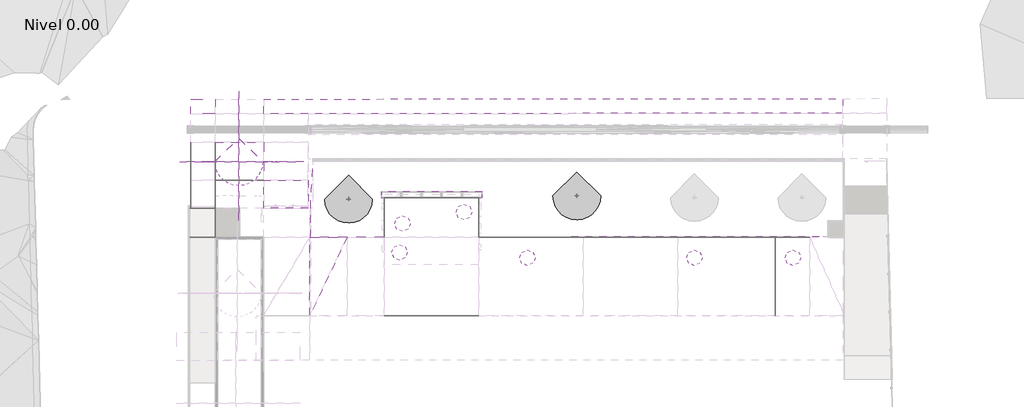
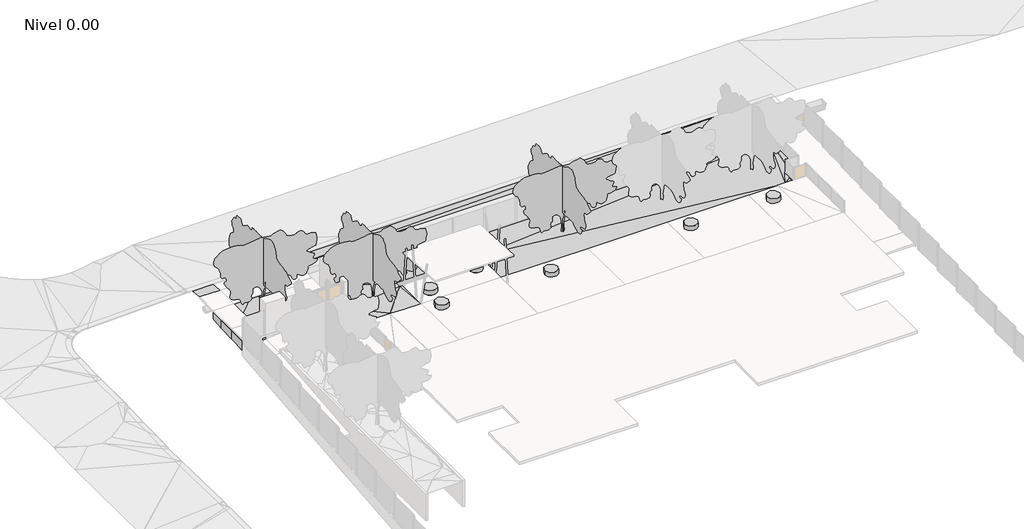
# One storey, part 9 of 10: 23 proxies, 3 geographic elements.
"""IFC4 building model written with IfcOpenShell, lengths in millimetres."""

from ifc_helpers import new_model, si_unit, origin, place, context, project, spatial, triangles, transform, mapped, element, save
from components import generic_models_06e8632b, m_rpc_tree_deciduous_31fc5fb8

model = new_model("IFC4")

# Units and contexts
model_context = context("Model", 3, world=origin())
ifc_project = project(units=[si_unit("LENGTHUNIT", "METRE", prefix="MILLI")], contexts=[model_context])

# Site, building, storey
site = spatial("IfcSite", under=ifc_project)
building = spatial("IfcBuilding", under=site)
storey = spatial("IfcBuildingStorey", under=building, Name="Nivel 0.00", Elevation=0.0)

# Proxies
placement = place(None, origin())
element("IfcBuildingElementProxy", 1, Name="Building Element Proxy", at=placement, inside=storey, context=model_context, shape_type="Tessellation", body=[
    triangles([(-22137.5720032, 9420.6086975, 1349.840427), (-22137.5720032, 9420.6086975, 886.5374565), (-22137.5720032, 9754.9929382, 1349.840427), (-22137.5720032, 9754.9929382, 911.1204037), (-22137.5720032, 10777.4409943, 1349.840427), (-22137.5720032, 10777.4409943, 965.9371885)], [[1, 4, 2], [1, 3, 4], [3, 6, 4], [3, 5, 6]], closed=False),
    triangles([(-23708.28078, 10777.5840088, 1349.840427), (-23708.28078, 10777.5840088, 733.5345137), (-23708.28078, 9420.6086975, 1349.840427), (-23708.28078, 9420.6086975, 660.7827044)], [[1, 4, 2], [1, 3, 4]], closed=False),
    triangles([(-23708.28078, 9420.6086975, 1349.840427), (-23708.28078, 9420.6086975, 660.7827044), (-23708.28078, 10777.5840088, 1349.840427), (-23708.28078, 10777.5840088, 733.5345137)], [[1, 4, 2], [1, 3, 4]], closed=False),
    triangles([(-22137.5720032, 10777.4409943, 1349.840427), (-22137.5720032, 10777.4409943, 965.9371885), (-22137.5720032, 9754.9929382, 1349.840427), (-22137.5720032, 9754.9929382, 911.1204037), (-22137.5720032, 9420.6086975, 1349.840427), (-22137.5720032, 9420.6086975, 886.5374565)], [[1, 4, 2], [1, 3, 4], [3, 6, 4], [3, 5, 6]], closed=False),
    triangles([(-22137.5720032, 10777.4409943, 1349.840427), (-22137.5720032, 10777.4409943, 965.9371885), (-22137.5720032, 11558.1026459, 1349.840427), (-22137.5720032, 11558.1026459, 1007.7910292), (-22137.5720032, 11845.059549, 1349.840427), (-22137.5720032, 11845.059549, 1026.7517178)], [[1, 4, 2], [1, 3, 4], [3, 6, 4], [3, 5, 6]], closed=False),
    triangles([(-23708.28078, 11845.059549, 1349.840427), (-23708.28078, 11845.059549, 827.0926111), (-23708.28078, 11719.6904572, 1349.840427), (-23708.28078, 11719.6904572, 784.0439306), (-23708.28078, 10777.5840088, 1349.840427), (-23708.28078, 10777.5840088, 733.5345137)], [[1, 4, 2], [1, 3, 4], [3, 6, 4], [3, 5, 6]], closed=False),
    triangles([(-23708.28078, 10777.5840088, 1349.840427), (-23708.28078, 10777.5840088, 733.5345137), (-23708.28078, 11719.6904572, 1349.840427), (-23708.28078, 11719.6904572, 784.0439306), (-23708.28078, 11845.059549, 1349.840427), (-23708.28078, 11845.059549, 827.0926111)], [[1, 4, 2], [1, 3, 4], [3, 6, 4], [3, 5, 6]], closed=False),
    triangles([(-22137.5720032, 11845.059549, 1349.840427), (-22137.5720032, 11845.059549, 1026.7517178), (-22137.5720032, 11558.1026459, 1349.840427), (-22137.5720032, 11558.1026459, 1007.7910292), (-22137.5720032, 10777.4409943, 1349.840427), (-22137.5720032, 10777.4409943, 965.9371885)], [[1, 4, 2], [1, 3, 4], [3, 6, 4], [3, 5, 6]], closed=False),
    triangles([(-23708.28078, 11845.059549, 1349.840427), (-23708.28078, 9420.6086975, 1349.840427), (-22137.5720032, 9420.6086975, 1349.840427), (-22137.5720032, 11845.059549, 1349.840427)], [[1, 2, 3], [3, 4, 1]], closed=False),
])
element("IfcBuildingElementProxy", 2, Name="Building Element Proxy", at=placement, inside=storey, context=model_context, shape_type="Tessellation", body=[
    triangles([(-19057.5972107, 7625.127594, 1349.840427), (-16212.3325104, 7625.127594, 1349.840427), (-16212.3325104, 9420.6086975, 1349.840427), (-19057.5972107, 9420.6086975, 1349.840427)], [[4, 1, 3], [2, 3, 1]], closed=False),
])
element("IfcBuildingElementProxy", 3, Name="Building Element Proxy", at=placement, inside=storey, context=model_context, shape_type="Tessellation", body=[
    triangles([(-19057.5972107, 9420.6086975, 1349.840427), (-19057.5972107, 9420.6086975, 1103.6114885), (-19562.2291992, 9420.6086975, 1349.840427), (-19562.2291992, 9420.6086975, 1222.4268379), (-20641.6981934, 9420.6086975, 1349.840427), (-20641.6981934, 9420.6086975, 1091.6262463), (-22137.5720032, 9420.6086975, 1349.840427), (-22137.5720032, 9420.6086975, 886.5374565), (-22137.5720032, 7662.0526657, 1349.840427), (-22137.5720032, 7662.0526657, 757.2537054), (-22137.5720032, 7625.127594, 1349.840427), (-22137.5720032, 7625.127594, 754.0387127)], [[1, 4, 2], [1, 3, 4], [3, 6, 4], [3, 5, 6], [5, 8, 6], [5, 7, 8], [7, 10, 8], [7, 9, 10], [9, 12, 10], [9, 11, 12]], closed=False),
    triangles([(-19057.5972107, 9420.6086975, 1349.840427), (-19057.5972107, 9420.6086975, 1103.6114885), (-19562.2291992, 9420.6086975, 1349.840427), (-19562.2291992, 9420.6086975, 1222.4268379), (-20641.6981934, 9420.6086975, 1349.840427), (-20641.6981934, 9420.6086975, 1091.6262463), (-22137.5720032, 9420.6086975, 1349.840427), (-22137.5720032, 9420.6086975, 886.5374565), (-22137.5720032, 7662.0526657, 1349.840427), (-22137.5720032, 7662.0526657, 757.2537054), (-22137.5720032, 7625.127594, 1349.840427), (-22137.5720032, 7625.127594, 754.0387127)], [[1, 4, 2], [1, 3, 4], [3, 6, 4], [3, 5, 6], [5, 8, 6], [5, 7, 8], [7, 10, 8], [7, 9, 10], [9, 12, 10], [9, 11, 12]], closed=False),
    triangles([(-22137.5720032, 9420.6086975, 1349.840427), (-22137.5720032, 7620.6086838, 1349.840427), (-19057.5972107, 7620.6086838, 1349.840427), (-19057.5972107, 9420.6086975, 1349.840427)], [[1, 2, 3], [3, 4, 1]], closed=False),
])
element("IfcBuildingElementProxy", 4, Name="Building Element Proxy", at=placement, inside=storey, context=model_context, shape_type="Tessellation", body=[
    triangles([(-22137.5720032, 9420.6086975, 1349.840427), (-22137.5720032, 9420.6086975, 886.5374565), (-22137.5720032, 7662.0526657, 1349.840427), (-22137.5720032, 7662.0526657, 757.2537054), (-22137.5720032, 7625.127594, 1349.840427), (-22137.5720032, 7625.127594, 754.03864), (-22168.9793884, 7625.127594, 1349.840427), (-22168.9793884, 7625.127594, 750.2327677), (-23708.28078, 7625.127594, 1349.840427), (-23708.28078, 7625.127594, 539.1900899), (-23708.28078, 8897.803981, 1349.840427), (-23708.28078, 8897.803981, 632.7534559), (-23708.28078, 9420.6086975, 1349.840427), (-23708.28078, 9420.6086975, 660.7827044)], [[1, 4, 2], [1, 3, 4], [3, 6, 4], [3, 5, 6], [5, 8, 6], [5, 7, 8], [7, 10, 8], [7, 9, 10], [9, 12, 10], [9, 11, 12], [11, 14, 12], [11, 13, 14]], closed=False),
    triangles([(-23708.28078, 9420.6086975, 1349.840427), (-23708.28078, 9420.6086975, 660.7827044), (-23708.28078, 8897.803981, 1349.840427), (-23708.28078, 8897.803981, 632.7534559), (-23708.28078, 7625.127594, 1349.840427), (-23708.28078, 7625.127594, 539.1900899), (-22168.9793884, 7625.127594, 1349.840427), (-22168.9793884, 7625.127594, 750.2327677), (-22137.5720032, 7625.127594, 1349.840427), (-22137.5720032, 7625.127594, 754.03864), (-22137.5720032, 7662.0526657, 1349.840427), (-22137.5720032, 7662.0526657, 757.2537054), (-22137.5720032, 9420.6086975, 1349.840427), (-22137.5720032, 9420.6086975, 886.5374565)], [[1, 4, 2], [1, 3, 4], [3, 6, 4], [3, 5, 6], [5, 8, 6], [5, 7, 8], [7, 10, 8], [7, 9, 10], [9, 12, 10], [9, 11, 12], [11, 14, 12], [11, 13, 14]], closed=False),
    triangles([(-22137.5720032, 9420.6086975, 1349.840427), (-23708.28078, 9420.6086975, 1349.840427), (-23708.28078, 7625.127594, 1349.840427), (-22137.5720032, 7625.127594, 1349.840427)], [[2, 3, 1], [4, 1, 3]], closed=False),
])
element("IfcBuildingElementProxy", 5, Name="Building Element Proxy", at=placement, inside=storey, context=model_context, shape_type="Tessellation", body=[
    triangles([(-23758.2800537, 5786.4921478, 1049.8403521), (-23758.2800537, 5786.4921478, 1049.2509258), (-23732.9722961, 5786.4921478, 1049.8403521), (-23732.9722961, 5786.4921478, 1049.2509258), (-22137.5720032, 5786.4921478, 1049.8403521), (-22137.5720032, 5786.4921478, 1049.2509258)], [[1, 4, 2], [1, 3, 4], [3, 6, 4], [3, 5, 6]], closed=False),
    triangles([(-22137.5720032, 7620.6086838, 1049.8403521), (-22137.5720032, 7620.6086838, 1049.2900223), (-22137.5720032, 5786.4921478, 1049.8403521), (-22137.5720032, 5786.4921478, 1049.2900223)], [[1, 4, 2], [1, 3, 4]], closed=False),
    triangles([(-22137.5720032, 7620.6086838, 1049.8403521), (-22137.5720032, 7620.6086838, 753.6452047), (-22172.8233398, 7620.6086838, 1049.8403521), (-22172.8233398, 7620.6086838, 749.3735905), (-23758.2800537, 7620.6086838, 1049.8403521), (-23758.2800537, 7620.6086838, 532.0027379)], [[1, 4, 2], [1, 3, 4], [3, 6, 4], [3, 5, 6]], closed=False),
    triangles([(-22137.5720032, 7620.6086838, 1049.8403521), (-22137.5720032, 7620.6086838, 753.6452047), (-22172.8233398, 7620.6086838, 1049.8403521), (-22172.8233398, 7620.6086838, 749.3735905), (-23758.2800537, 7620.6086838, 1049.8403521), (-23758.2800537, 7620.6086838, 532.0027379)], [[1, 4, 2], [1, 3, 4], [3, 6, 4], [3, 5, 6]], closed=False),
    triangles([(-23758.2800537, 5786.4921478, 1049.8403521), (-23758.2800537, 5786.4921478, 1049.2509258), (-22137.5720032, 5786.4921478, 1049.8403521), (-22137.5720032, 5786.4921478, 1049.2509258)], [[1, 4, 2], [1, 3, 4]], closed=False),
    triangles([(-22137.5720032, 7620.6086838, 1049.8403521), (-22137.5720032, 7620.6086838, 1049.2900223), (-22137.5720032, 5786.4921478, 1049.8403521), (-22137.5720032, 5786.4921478, 1049.2900223)], [[1, 4, 2], [1, 3, 4]], closed=False),
    triangles([(-22137.5720032, 7620.6086838, 1049.8403521), (-23758.2800537, 7620.6086838, 1049.8403521), (-23758.2800537, 5786.4921478, 1049.8403521), (-22137.5720032, 5786.4921478, 1049.8403521)], [[2, 3, 4], [4, 1, 2]], closed=False),
])
element("IfcBuildingElementProxy", 6, Name="Building Element Proxy", at=placement, inside=storey, context=model_context, shape_type="Tessellation", body=[
    triangles([(7374.8864731, 5786.4921478, 1249.9700695), (7374.8864731, 5786.4921478, 757.3421448), (12446.8030518, 5786.4921478, 1249.9700695), (12446.8030518, 5786.4921478, 732.5267263), (13223.8335297, 5786.4921478, 1249.9700695), (13223.8335297, 5786.4921478, 718.6928324), (13584.7870789, 5786.4921478, 1249.9700695), (13584.7870789, 5786.4921478, 718.3090622), (13584.7870789, 5319.7125, 1259.2854893), (13584.7870789, 5319.7125, 684.1699396), (13584.7870789, 1645.3290768, 1332.6141529), (13584.7870789, 1645.3290768, 462.999755), (13584.7870789, 775.6549078, 1349.9700703), (13584.7870789, 775.6549078, 407.566438)], [[1, 4, 2], [1, 3, 4], [3, 6, 4], [3, 5, 6], [5, 8, 6], [5, 7, 8], [7, 10, 8], [7, 9, 10], [9, 12, 10], [9, 11, 12], [11, 14, 12], [11, 13, 14]], closed=False),
    triangles([(13584.7870789, 775.6549078, 1349.9700703), (13584.7870789, 775.6549078, 407.566438), (13584.7870789, 1645.3290768, 1332.6141529), (13584.7870789, 1645.3290768, 462.999755), (13584.7870789, 5319.7125, 1259.2854893), (13584.7870789, 5319.7125, 684.1699396), (13584.7870789, 5786.4921478, 1249.9700695), (13584.7870789, 5786.4921478, 718.3090622), (13223.8335297, 5786.4921478, 1249.9700695), (13223.8335297, 5786.4921478, 718.6928324), (12446.8030518, 5786.4921478, 1249.9700695), (12446.8030518, 5786.4921478, 732.5267263), (7374.8864731, 5786.4921478, 1249.9700695), (7374.8864731, 5786.4921478, 757.3421448)], [[1, 4, 2], [1, 3, 4], [3, 6, 4], [3, 5, 6], [5, 8, 6], [5, 7, 8], [7, 10, 8], [7, 9, 10], [9, 12, 10], [9, 11, 12], [11, 14, 12], [11, 13, 14]], closed=False),
    triangles([(7374.8864731, 5786.4921478, 1249.9700695), (7374.8864731, 775.6549078, 1349.9700703), (13584.7870789, 775.6549078, 1349.9700703), (13584.7870789, 5786.4921478, 1249.9700695)], [[1, 2, 4], [3, 4, 2]], closed=False),
])
element("IfcBuildingElementProxy", 7, Name="Building Element Proxy", at=placement, inside=storey, context=model_context, shape_type="Tessellation", body=[
    triangles([(1334.5855442, 5786.4921478, 1249.9700695), (1334.5855442, 5786.4921478, 807.5097221), (3629.5790359, 5786.4921478, 1249.9700695), (3629.5790359, 5786.4921478, 791.2949415), (4845.4062767, 5786.4921478, 1249.9700695), (4845.4062767, 5786.4921478, 769.7181335), (7374.8864731, 5786.4921478, 1249.9700695), (7374.8864731, 5786.4921478, 757.3421448)], [[1, 4, 2], [1, 3, 4], [3, 6, 4], [3, 5, 6], [5, 8, 6], [5, 7, 8]], closed=False),
    triangles([(7374.8864731, 5786.4921478, 1249.9700695), (7374.8864731, 5786.4921478, 757.3421448), (4845.4062767, 5786.4921478, 1249.9700695), (4845.4062767, 5786.4921478, 769.7181335), (3629.5790359, 5786.4921478, 1249.9700695), (3629.5790359, 5786.4921478, 791.2949415), (1334.5855442, 5786.4921478, 1249.9700695), (1334.5855442, 5786.4921478, 807.5097221)], [[1, 4, 2], [1, 3, 4], [3, 6, 4], [3, 5, 6], [5, 8, 6], [5, 7, 8]], closed=False),
    triangles([(1334.5855442, 5786.4921478, 1249.9700695), (1334.5855442, 775.6549078, 1349.9700703), (7374.8864731, 775.6549078, 1349.9700703), (7374.8864731, 5786.4921478, 1249.9700695)], [[1, 2, 4], [3, 4, 2]], closed=False),
])
element("IfcBuildingElementProxy", 8, Name="Building Element Proxy", at=placement, inside=storey, context=model_context, shape_type="Tessellation", body=[
    triangles([(-5315.2389359, 776.4101669, 1349.9549549), (-5315.2389359, 776.4101669, 653.3769791), (-5315.2389359, 775.6549078, 1349.9700703), (-5315.2389359, 775.6549078, 653.3519079)], [[1, 4, 2], [1, 3, 4]], closed=False),
    triangles([(1334.5855442, 5786.4921478, 1249.9700695), (1334.5855442, 5786.4921478, 807.5097221), (-106.5615734, 5786.4921478, 1249.9700695), (-106.5615734, 5786.4921478, 817.6918768), (-175.7100052, 5786.4921478, 1249.9700695), (-175.7100052, 5786.4921478, 819.3092926), (-1650.4463516, 5786.4921478, 1249.9700695), (-1650.4463516, 5786.4921478, 833.9799088), (-2513.0402115, 5786.4921478, 1249.9700695), (-2513.0402115, 5786.4921478, 849.2544125), (-2525.2237701, 5786.4921478, 1249.9700695), (-2525.2237701, 5786.4921478, 849.0135841), (-3285.6122406, 5786.4921478, 1249.9700695), (-3285.6122406, 5786.4921478, 833.9799088), (-4737.167244, 5786.4921478, 1249.9700695), (-4737.167244, 5786.4921478, 820.3114843), (-4785.2186714, 5786.4921478, 1249.9700695), (-4785.2186714, 5786.4921478, 820.516995), (-4883.7768997, 5786.4921478, 1249.9700695), (-4883.7768997, 5786.4921478, 820.3515982), (-5071.1055817, 5786.4921478, 1249.9700695), (-5071.1055817, 5786.4921478, 816.9768042), (-5302.006604, 5786.4921478, 1249.9700695), (-5302.006604, 5786.4921478, 809.7698313), (-5315.2389359, 5786.4921478, 1249.9700695), (-5315.2389359, 5786.4921478, 809.5782005)], [[1, 4, 2], [1, 3, 4], [3, 6, 4], [3, 5, 6], [5, 8, 6], [5, 7, 8], [7, 10, 8], [7, 9, 10], [9, 12, 10], [9, 11, 12], [11, 14, 12], [11, 13, 14], [13, 16, 14], [13, 15, 16], [15, 18, 16], [15, 17, 18], [17, 20, 18], [17, 19, 20], [19, 22, 20], [19, 21, 22], [21, 24, 22], [21, 23, 24], [23, 26, 24], [23, 25, 26]], closed=False),
    triangles([(-5315.2389359, 776.4101669, 1349.9549549), (-5315.2389359, 776.4101669, 653.3769791), (-5315.2389359, 775.6549078, 1349.9700703), (-5315.2389359, 775.6549078, 653.3519079)], [[1, 4, 2], [1, 3, 4]], closed=False),
    triangles([(1334.5855442, 5786.4921478, 1249.9700695), (1334.5855442, 5786.4921478, 807.5097221), (-106.5615734, 5786.4921478, 1249.9700695), (-106.5615734, 5786.4921478, 817.6918768), (-175.7100052, 5786.4921478, 1249.9700695), (-175.7100052, 5786.4921478, 819.3092926), (-1650.4463516, 5786.4921478, 1249.9700695), (-1650.4463516, 5786.4921478, 833.9799088), (-2513.0402115, 5786.4921478, 1249.9700695), (-2513.0402115, 5786.4921478, 849.2544125), (-2525.2237701, 5786.4921478, 1249.9700695), (-2525.2237701, 5786.4921478, 849.0135841), (-3285.6122406, 5786.4921478, 1249.9700695), (-3285.6122406, 5786.4921478, 833.9799088), (-4737.167244, 5786.4921478, 1249.9700695), (-4737.167244, 5786.4921478, 820.3114843), (-4785.2186714, 5786.4921478, 1249.9700695), (-4785.2186714, 5786.4921478, 820.516995), (-4883.7768997, 5786.4921478, 1249.9700695), (-4883.7768997, 5786.4921478, 820.3515982), (-5071.1055817, 5786.4921478, 1249.9700695), (-5071.1055817, 5786.4921478, 816.9768042), (-5302.006604, 5786.4921478, 1249.9700695), (-5302.006604, 5786.4921478, 809.7698313), (-5315.2389359, 5786.4921478, 1249.9700695), (-5315.2389359, 5786.4921478, 809.5782005)], [[1, 4, 2], [1, 3, 4], [3, 6, 4], [3, 5, 6], [5, 8, 6], [5, 7, 8], [7, 10, 8], [7, 9, 10], [9, 12, 10], [9, 11, 12], [11, 14, 12], [11, 13, 14], [13, 16, 14], [13, 15, 16], [15, 18, 16], [15, 17, 18], [17, 20, 18], [17, 19, 20], [19, 22, 20], [19, 21, 22], [21, 24, 22], [21, 23, 24], [23, 26, 24], [23, 25, 26]], closed=False),
    triangles([(1334.5855442, 775.6549078, 1349.9700703), (1334.5855442, 5786.4921478, 1249.9700695), (-5315.2389359, 5786.4921478, 1249.9700695), (-5315.2389359, 775.6549078, 1349.9700703)], [[3, 4, 1], [1, 2, 3]], closed=False),
])
element("IfcBuildingElementProxy", 9, Name="Building Element Proxy", at=placement, inside=storey, context=model_context, shape_type="Tessellation", body=[
    triangles([(-11355.1499176, 776.4101669, 1349.9700703), (-11355.1499176, 776.4101669, 530.0727322), (-8910.4846024, 776.4101669, 1349.9700703), (-8910.4846024, 776.4101669, 606.3761415), (-6402.9051041, 776.4101669, 1349.9700703), (-6402.9051041, 776.4101669, 651.5516544), (-5315.2389359, 776.4101669, 1349.9700703), (-5315.2389359, 776.4101669, 653.3769791)], [[1, 4, 2], [1, 3, 4], [3, 6, 4], [3, 5, 6], [5, 8, 6], [5, 7, 8]], closed=False),
    triangles([(-11355.1499176, 776.4101669, 1349.9700703), (-11355.1499176, 776.4101669, 530.0727322), (-8910.4846024, 776.4101669, 1349.9700703), (-8910.4846024, 776.4101669, 606.3761415), (-6402.9051041, 776.4101669, 1349.9700703), (-6402.9051041, 776.4101669, 651.5516544), (-5315.2389359, 776.4101669, 1349.9700703), (-5315.2389359, 776.4101669, 653.3769791)], [[1, 4, 2], [1, 3, 4], [3, 6, 4], [3, 5, 6], [5, 8, 6], [5, 7, 8]], closed=False),
    triangles([(-11355.1499176, 5786.4921478, 1249.9700695), (-11355.1499176, 776.4101669, 1349.9700703), (-5315.2389359, 776.4101669, 1349.9700703), (-5315.2389359, 5786.4921478, 1249.9700695)], [[1, 2, 3], [3, 4, 1]], closed=False),
])
element("IfcBuildingElementProxy", 10, Name="Building Element Proxy", at=placement, inside=storey, context=model_context, shape_type="Tessellation", body=[
    triangles([(-11355.1499176, 5786.4921478, 1249.8404263), (-11355.1499176, 5786.4921478, 1249.9700695), (-5315.2389359, 5786.4921478, 1249.8404263), (-5315.2389359, 5786.4921478, 1249.9700695)], [[1, 4, 2], [1, 3, 4]], closed=False),
    triangles([(-11355.1499176, 5786.4921478, 1249.8404263), (-11355.1499176, 5786.4921478, 722.0855759), (-11355.1499176, 8280.9817474, 1249.8404263), (-11355.1499176, 8280.9817474, 823.0689468), (-10601.9319397, 8280.9817474, 1249.8404263), (-10601.9319397, 8280.9817474, 833.9799088), (-5673.7362396, 8280.9817474, 1249.8404263), (-5673.7362396, 8280.9817474, 990.1722645), (-5377.9258072, 8280.9817474, 1249.8404263), (-5377.9258072, 8280.9817474, 999.5475643), (-5315.2389359, 8280.9817474, 1249.8404263), (-5315.2389359, 8280.9817474, 999.5423321), (-5315.2389359, 8068.5685501, 1249.8404263), (-5315.2389359, 8068.5685501, 982.7203938), (-5315.2389359, 7459.974884, 1249.8404263), (-5315.2389359, 7459.974884, 928.8156172), (-5315.2389359, 6389.2629135, 1249.8404263), (-5315.2389359, 6389.2629135, 833.9799088), (-5315.2389359, 5786.4921478, 1249.8404263), (-5315.2389359, 5786.4921478, 809.5782005)], [[1, 4, 2], [1, 3, 4], [3, 6, 4], [3, 5, 6], [5, 8, 6], [5, 7, 8], [7, 10, 8], [7, 9, 10], [9, 12, 10], [9, 11, 12], [11, 14, 12], [11, 13, 14], [13, 16, 14], [13, 15, 16], [15, 18, 16], [15, 17, 18], [17, 20, 18], [17, 19, 20]], closed=False),
    triangles([(-5315.2389359, 5786.4921478, 1249.8404263), (-5315.2389359, 5786.4921478, 809.5782005), (-5315.2389359, 6389.2629135, 1249.8404263), (-5315.2389359, 6389.2629135, 833.9799088), (-5315.2389359, 7459.974884, 1249.8404263), (-5315.2389359, 7459.974884, 928.8156172), (-5315.2389359, 8068.5685501, 1249.8404263), (-5315.2389359, 8068.5685501, 982.7203938), (-5315.2389359, 8280.9817474, 1249.8404263), (-5315.2389359, 8280.9817474, 999.5423321), (-5377.9258072, 8280.9817474, 1249.8404263), (-5377.9258072, 8280.9817474, 999.5475643), (-5673.7362396, 8280.9817474, 1249.8404263), (-5673.7362396, 8280.9817474, 990.1722645), (-10601.9319397, 8280.9817474, 1249.8404263), (-10601.9319397, 8280.9817474, 833.9799088), (-11355.1499176, 8280.9817474, 1249.8404263), (-11355.1499176, 8280.9817474, 823.0689468), (-11355.1499176, 5786.4921478, 1249.8404263), (-11355.1499176, 5786.4921478, 722.0855759)], [[1, 4, 2], [1, 3, 4], [3, 6, 4], [3, 5, 6], [5, 8, 6], [5, 7, 8], [7, 10, 8], [7, 9, 10], [9, 12, 10], [9, 11, 12], [11, 14, 12], [11, 13, 14], [13, 16, 14], [13, 15, 16], [15, 18, 16], [15, 17, 18], [17, 20, 18], [17, 19, 20]], closed=False),
    triangles([(-11355.1499176, 5786.4921478, 1249.8404263), (-11355.1499176, 5786.4921478, 1249.9700695), (-5315.2389359, 5786.4921478, 1249.8404263), (-5315.2389359, 5786.4921478, 1249.9700695)], [[1, 4, 2], [1, 3, 4]], closed=False),
    triangles([(-11355.1499176, 5786.4921478, 1249.8404263), (-5315.2389359, 5786.4921478, 1249.8404263), (-5315.2389359, 8280.9817474, 1249.8404263), (-11355.1499176, 8280.9817474, 1249.8404263)], [[4, 1, 2], [2, 3, 4]], closed=False),
])
element("IfcBuildingElementProxy", 11, Name="Building Element Proxy", at=placement, inside=storey, context=model_context, shape_type="Tessellation", body=[
    triangles([(-13730.1933197, 775.6549078, 1349.9636753), (-13730.1933197, 775.6549078, 484.8295999), (-13730.1933197, 776.4101669, 1349.94856), (-13730.1933197, 776.4101669, 484.8601939)], [[1, 4, 2], [1, 3, 4]], closed=False),
    triangles([(-16105.4704285, 775.3350145, 1349.9700703), (-13730.1933197, 775.3350145, 1349.9700703), (-13730.1933197, 5786.4921478, 1249.9700695)], [[1, 2, 3]], closed=False),
])
element("IfcBuildingElementProxy", 12, Name="Building Element Proxy", at=placement, inside=storey, context=model_context, shape_type="Tessellation", body=[
    triangles([(-16105.2367218, 5786.4921478, 1349.8670242), (-16105.2367218, 775.8269176, 1349.8670242), (-13730.1933197, 5786.4921478, 1249.8670235)], [[1, 2, 3]], closed=False),
])
element("IfcBuildingElementProxy", 13, Name="Building Element Proxy", at=placement, inside=storey, context=model_context, shape_type="Tessellation", body=[
    triangles([(13585.3789032, 775.6549078, 1349.9700703), (13585.3789032, 775.6549078, 407.5635312), (13585.3789032, 1643.1742664, 1332.6571735), (13585.3789032, 1643.1742664, 462.8595019), (13585.3789032, 5318.9468491, 1259.30075), (13585.3789032, 5318.9468491, 684.1133297), (13585.3789032, 5786.4921478, 1249.9700695), (13585.3789032, 5786.4921478, 718.3084082), (15795.1568115, 5786.4921478, 1249.9700695), (15795.1568115, 5786.4921478, 715.9589876)], [[1, 4, 2], [1, 3, 4], [3, 6, 4], [3, 5, 6], [5, 8, 6], [5, 7, 8], [7, 10, 8], [7, 9, 10]], closed=False),
    triangles([(15795.1568115, 5786.4921478, 1249.9700695), (15795.1568115, 5786.4921478, 715.9589876), (13585.3789032, 5786.4921478, 1249.9700695), (13585.3789032, 5786.4921478, 718.3084082)], [[1, 4, 2], [1, 3, 4]], closed=False),
    triangles([(13585.3789032, 5786.4921478, 1249.9700695), (13585.3789032, 5786.4921478, 718.3084082), (13585.3789032, 5318.9468491, 1259.30075), (13585.3789032, 5318.9468491, 684.1133297), (13585.3789032, 1643.1742664, 1332.6571735), (13585.3789032, 1643.1742664, 462.8595019), (13585.3789032, 775.6549078, 1349.9700703), (13585.3789032, 775.6549078, 407.5635312)], [[1, 4, 2], [1, 3, 4], [3, 6, 4], [3, 5, 6], [5, 8, 6], [5, 7, 8]], closed=False),
    triangles([(13585.3789032, 5786.4921478, 1249.9700695), (13585.3789032, 775.6549078, 1349.9700703), (15795.1568115, 775.6549078, 1349.9700703), (15795.1568115, 5786.4921478, 1249.9700695)], [[1, 2, 3], [3, 4, 1]], closed=False),
])
element("IfcBuildingElementProxy", 14, Name="Building Element Proxy", at=placement, inside=storey, context=model_context, shape_type="Tessellation", body=[
    triangles([(-22137.5720032, 11845.059549, 1450.0000111), (-19057.5972107, 11845.059549, 1450.0000111), (-19057.5972107, 9420.6086975, 1450.0000111), (-22137.5720032, 9420.6086975, 1450.0000111)], [[1, 4, 3], [3, 2, 1]], closed=False),
])
element("IfcBuildingElementProxy", 15, Name="Building Element Proxy", at=placement, inside=storey, context=model_context, shape_type="Tessellation", body=[
    triangles([(-16056.4431885, 5786.4921478, 1450.0000111), (-13730.1968079, 5786.4921478, 1450.0000111), (-11355.1499176, 5786.4921478, 1350.0000103), (-11355.1499176, 8280.9817474, 1350.0000103), (-11560.1943787, 8280.9817474, 1350.0000103), (-11560.1943787, 8680.9817505, 1350.0000103), (-5100.1945038, 8680.9817505, 1350.0000103), (-5100.1945038, 8671.7125488, 1350.0000103), (-5100.1945038, 8280.9817474, 1350.0000103), (-5315.2389359, 8280.9817474, 1350.0000103), (-5315.2389359, 5786.4921478, 1350.0000103), (16403.3138763, 5798.1780624, 1350.0000103), (16895.8407898, 5787.7554428, 1350.0000103), (16955.5255188, 5786.4921478, 1400.0000107), (16955.5255188, 6274.3745773, 1400.0000107), (16955.5255188, 6812.2562805, 1400.6198856), (17374.3057709, 6812.2562805, 1450.0000111), (18006.5974091, 6812.2562805, 1450.0000111), (17906.2767883, 10628.4128815, 1450.0000111), (-15904.2699188, 10628.4128815, 1450.0000111), (-16054.8328217, 7629.2314133, 1450.0000111), (-5095.093071, 8680.9817505, 1350.0000103), (-5095.093071, 8280.9817474, 1350.0000103), (16950.2409576, 6815.1659866, 1400.0000107), (-15904.8326752, 7629.2314133, 1450.0000111)], [[1, 25, 21], [25, 1, 2], [21, 25, 20], [5, 2, 3], [2, 5, 25], [25, 6, 20], [6, 25, 5], [20, 6, 7], [4, 5, 3], [20, 7, 22], [10, 11, 9], [12, 13, 15], [15, 13, 14], [24, 12, 15], [17, 18, 19], [22, 8, 23], [23, 8, 9], [8, 22, 7], [16, 17, 24], [12, 24, 19], [22, 23, 12], [12, 19, 22], [17, 19, 24], [9, 11, 23], [16, 24, 15], [22, 19, 20], [23, 11, 12]], closed=False),
])
element("IfcBuildingElementProxy", 16, Name="Building Element Proxy", at=placement, inside=storey, context=model_context, shape_type="Tessellation", body=[
    triangles([(17905.5256714, 13691.7886871, 1450.0000111), (-16212.3325104, 13646.5647034, 1500.0000114), (-19057.5972107, 13646.8239899, 1500.0000114), (-19057.6006989, 14585.8771362, 1408.6199787), (17905.5256714, 14624.7201141, 1500.0000114)], [[4, 3, 2], [2, 1, 5], [2, 5, 4]], closed=False),
])
element("IfcBuildingElementProxy", 17, Name="Building Element Proxy", at=placement, inside=storey, context=model_context, shape_type="Tessellation", body=[
    triangles([(-22137.5720032, 14582.6401245, 1400.0000107), (-23708.3179871, 14578.6775757, 1400.0000107), (-23708.3179871, 13644.7066772, 1500.0000114), (-22137.5720032, 13644.7066772, 1500.0000114)], [[2, 3, 4], [4, 1, 2]], closed=False),
])
generic_models_shape = generic_models_06e8632b(model_context)
element("IfcBuildingElementProxy", 18, Name="ARQ_BANCA_REDONDA : ARQ_BANCA_REDONDA", ObjectType="ARQ_BANCA_REDONDA : ARQ_BANCA_REDONDA", at=placement, inside=storey, context=model_context, shape_type="MappedRepresentation", body=[
    mapped(generic_models_shape, transform((-10193.0436301, 6646.6791342, 1400.0), x_axis=(1.0, 0.0, 0.0), y_axis=(0.0, 1.0, 0.0), z_axis=(0.0, 0.0, 1.0))),
])
element("IfcBuildingElementProxy", 19, Name="ARQ_BANCA_REDONDA : ARQ_BANCA_REDONDA", ObjectType="ARQ_BANCA_REDONDA : ARQ_BANCA_REDONDA", at=placement, inside=storey, context=model_context, shape_type="MappedRepresentation", body=[
    mapped(generic_models_shape, transform((-6268.2151386, 7381.8383258, 1400.0), x_axis=(1.0, 0.0, 0.0), y_axis=(0.0, 1.0, 0.0), z_axis=(0.0, 0.0, 1.0))),
])
element("IfcBuildingElementProxy", 20, Name="ARQ_BANCA_REDONDA : ARQ_BANCA_REDONDA", ObjectType="ARQ_BANCA_REDONDA : ARQ_BANCA_REDONDA", at=placement, inside=storey, context=model_context, shape_type="MappedRepresentation", body=[
    mapped(generic_models_shape, transform((-10375.194761, 4803.5316368, 1400.0), x_axis=(1.0, 0.0, 0.0), y_axis=(0.0, 1.0, 0.0), z_axis=(0.0, 0.0, 1.0))),
])
element("IfcBuildingElementProxy", 21, Name="ARQ_BANCA_REDONDA : ARQ_BANCA_REDONDA", ObjectType="ARQ_BANCA_REDONDA : ARQ_BANCA_REDONDA", at=placement, inside=storey, context=model_context, shape_type="MappedRepresentation", body=[
    mapped(generic_models_shape, transform((-2222.7276498, 4465.6475695, 1400.0), x_axis=(1.0, 0.0, 0.0), y_axis=(0.0, 1.0, 0.0), z_axis=(0.0, 0.0, 1.0))),
])
element("IfcBuildingElementProxy", 22, Name="ARQ_BANCA_REDONDA : ARQ_BANCA_REDONDA", ObjectType="ARQ_BANCA_REDONDA : ARQ_BANCA_REDONDA", at=placement, inside=storey, context=model_context, shape_type="MappedRepresentation", body=[
    mapped(generic_models_shape, transform((8429.9782205, 4468.874729, 1400.0), x_axis=(1.0, 0.0, 0.0), y_axis=(0.0, 1.0, 0.0), z_axis=(0.0, 0.0, 1.0))),
])
element("IfcBuildingElementProxy", 23, Name="ARQ_BANCA_REDONDA : ARQ_BANCA_REDONDA", ObjectType="ARQ_BANCA_REDONDA : ARQ_BANCA_REDONDA", at=placement, inside=storey, context=model_context, shape_type="MappedRepresentation", body=[
    mapped(generic_models_shape, transform((14722.5227678, 4469.3074407, 1400.0), x_axis=(1.0, 0.0, 0.0), y_axis=(0.0, 1.0, 0.0), z_axis=(0.0, 0.0, 1.0))),
])

# Geographic elements
m_rpc_tree_deciduous_shape = m_rpc_tree_deciduous_31fc5fb8(model_context)
element("IfcGeographicElement", 24, ObjectType="M_RPC Tree - Deciduous : Liquidambar - 6000mm", at=placement, inside=storey, context=model_context, shape_type="MappedRepresentation", body=[
    mapped(m_rpc_tree_deciduous_shape, transform((927.0065123, 8405.846643, 1010.2565725), x_axis=(1.0, 0.0, 0.0), y_axis=(0.0, 1.0, 0.0), z_axis=(0.0, 0.0, 1.0))),
])
element("IfcGeographicElement", 25, ObjectType="M_RPC Tree - Deciduous : Liquidambar - 6000mm", at=placement, inside=storey, context=model_context, shape_type="MappedRepresentation", body=[
    mapped(m_rpc_tree_deciduous_shape, transform((-13635.2067045, 8205.9770755, 773.9473624), x_axis=(1.0, 0.0, 0.0), y_axis=(0.0, 1.0, 0.0), z_axis=(0.0, 0.0, 1.0))),
])
element("IfcGeographicElement", 26, ObjectType="M_RPC Tree - Deciduous : Liquidambar - 6000mm", at=placement, inside=storey, context=model_context, shape_type="MappedRepresentation", body=[
    mapped(m_rpc_tree_deciduous_shape, transform((-20632.5708971, 10579.2316763, 1450.0), x_axis=(1.0, 0.0, 0.0), y_axis=(0.0, 1.0, 0.0), z_axis=(0.0, 0.0, 1.0))),
])

save(model, "model.ifc")
